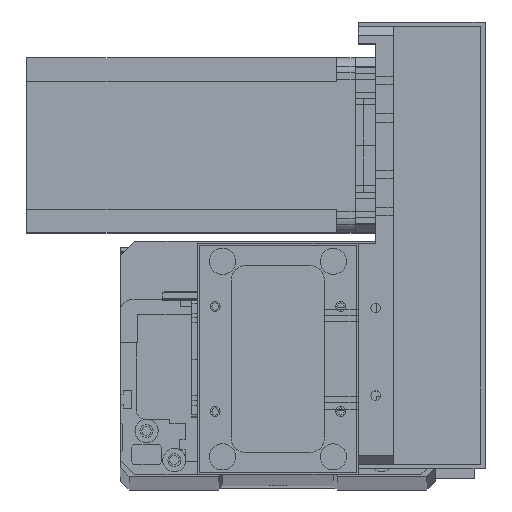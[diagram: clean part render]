
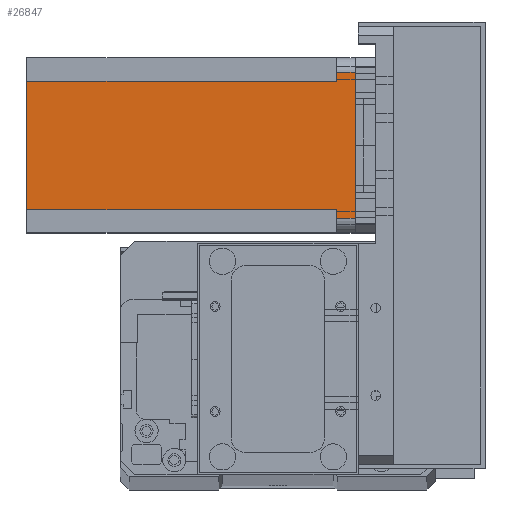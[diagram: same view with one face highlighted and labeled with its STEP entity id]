
A CAD part, top view. The second image highlights one B-rep face of the part: STEP entity #26847.
In plain terms, the highlighted planar face has unit normal (0, 0, 1) as drawn and (0, 1, 0) by its records, which use the part's own axes.
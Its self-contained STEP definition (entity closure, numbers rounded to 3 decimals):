
#25 = CARTESIAN_POINT ( 'NONE',  ( 0., 60., 0. ) ) ;
#172 = LINE ( 'NONE', #484, #33868 ) ;
#215 = LINE ( 'NONE', #25, #28513 ) ;
#484 = CARTESIAN_POINT ( 'NONE',  ( 52., 60., -112.5 ) ) ;
#602 = DIRECTION ( 'NONE',  ( 0., 0., -1. ) ) ;
#1312 = VERTEX_POINT ( 'NONE', #20075 ) ;
#2099 = LINE ( 'NONE', #34075, #15487 ) ;
#2185 = DIRECTION ( 'NONE',  ( -1., 0., 0. ) ) ;
#2917 = VERTEX_POINT ( 'NONE', #25038 ) ;
#2962 = CARTESIAN_POINT ( 'NONE',  ( 52., 60., -6.5 ) ) ;
#3352 = EDGE_CURVE ( 'NONE', #1312, #21145, #6605, .T. ) ;
#4083 = CARTESIAN_POINT ( 'NONE',  ( 55., 60., 0. ) ) ;
#4928 = VERTEX_POINT ( 'NONE', #4083 ) ;
#5136 = CARTESIAN_POINT ( 'NONE',  ( 55., 60., -6.5 ) ) ;
#5646 = DIRECTION ( 'NONE',  ( 1., 0., 0. ) ) ;
#6140 = VERTEX_POINT ( 'NONE', #17571 ) ;
#6154 = CARTESIAN_POINT ( 'NONE',  ( 5., 60., 0. ) ) ;
#6576 = VERTEX_POINT ( 'NONE', #6154 ) ;
#6605 = LINE ( 'NONE', #14763, #20737 ) ;
#8774 = PLANE ( 'NONE',  #10749 ) ;
#9759 = EDGE_CURVE ( 'NONE', #2917, #6576, #28688, .T. ) ;
#10749 = AXIS2_PLACEMENT_3D ( 'NONE', #19339, #11427, #30019 ) ;
#11117 = EDGE_LOOP ( 'NONE', ( #13211, #16205, #27756, #25618, #22162, #32625, #26067, #13283 ) ) ;
#11285 = EDGE_CURVE ( 'NONE', #4928, #6576, #215, .T. ) ;
#11427 = DIRECTION ( 'NONE',  ( 0., 1., 0. ) ) ;
#12087 = CARTESIAN_POINT ( 'NONE',  ( 8., 60., -112.5 ) ) ;
#13211 = ORIENTED_EDGE ( 'NONE', *, *, #11285, .F. ) ;
#13283 = ORIENTED_EDGE ( 'NONE', *, *, #9759, .T. ) ;
#13827 = EDGE_CURVE ( 'NONE', #21444, #22046, #20916, .T. ) ;
#14274 = DIRECTION ( 'NONE',  ( -1., 0., 0. ) ) ;
#14763 = CARTESIAN_POINT ( 'NONE',  ( 8., 60., -112.5 ) ) ;
#15487 = VECTOR ( 'NONE', #2185, 1000. ) ;
#16205 = ORIENTED_EDGE ( 'NONE', *, *, #16761, .T. ) ;
#16761 = EDGE_CURVE ( 'NONE', #4928, #22046, #31526, .T. ) ;
#17404 = VECTOR ( 'NONE', #602, 1000. ) ;
#17571 = CARTESIAN_POINT ( 'NONE',  ( 52., 60., -112.5 ) ) ;
#18518 = DIRECTION ( 'NONE',  ( 0., 0., 1. ) ) ;
#18641 = DIRECTION ( 'NONE',  ( -1., 0., 0. ) ) ;
#19339 = CARTESIAN_POINT ( 'NONE',  ( 0., 60., -112.5 ) ) ;
#19786 = FACE_OUTER_BOUND ( 'NONE', #11117, .T. ) ;
#19930 = EDGE_CURVE ( 'NONE', #6140, #21145, #28636, .T. ) ;
#20075 = CARTESIAN_POINT ( 'NONE',  ( 8., 60., -6.5 ) ) ;
#20737 = VECTOR ( 'NONE', #33313, 1000. ) ;
#20916 = LINE ( 'NONE', #2962, #27183 ) ;
#21145 = VERTEX_POINT ( 'NONE', #12087 ) ;
#21444 = VERTEX_POINT ( 'NONE', #32047 ) ;
#21626 = VECTOR ( 'NONE', #18518, 1000. ) ;
#22046 = VERTEX_POINT ( 'NONE', #5136 ) ;
#22162 = ORIENTED_EDGE ( 'NONE', *, *, #19930, .T. ) ;
#24469 = CARTESIAN_POINT ( 'NONE',  ( 55., 60., -112.5 ) ) ;
#24949 = CARTESIAN_POINT ( 'NONE',  ( 0., 60., -112.5 ) ) ;
#25038 = CARTESIAN_POINT ( 'NONE',  ( 5., 60., -6.5 ) ) ;
#25618 = ORIENTED_EDGE ( 'NONE', *, *, #28568, .F. ) ;
#26067 = ORIENTED_EDGE ( 'NONE', *, *, #30630, .T. ) ;
#26847 = ADVANCED_FACE ( 'NONE', ( #19786 ), #8774, .T. ) ;
#27141 = DIRECTION ( 'NONE',  ( 0., 0., 1. ) ) ;
#27183 = VECTOR ( 'NONE', #5646, 1000. ) ;
#27756 = ORIENTED_EDGE ( 'NONE', *, *, #13827, .F. ) ;
#28513 = VECTOR ( 'NONE', #18641, 1000. ) ;
#28568 = EDGE_CURVE ( 'NONE', #6140, #21444, #172, .T. ) ;
#28636 = LINE ( 'NONE', #24949, #34037 ) ;
#28688 = LINE ( 'NONE', #29089, #21626 ) ;
#29089 = CARTESIAN_POINT ( 'NONE',  ( 5., 60., -112.5 ) ) ;
#30019 = DIRECTION ( 'NONE',  ( 0., 0., 1. ) ) ;
#30630 = EDGE_CURVE ( 'NONE', #1312, #2917, #2099, .T. ) ;
#31526 = LINE ( 'NONE', #24469, #17404 ) ;
#32047 = CARTESIAN_POINT ( 'NONE',  ( 52., 60., -6.5 ) ) ;
#32625 = ORIENTED_EDGE ( 'NONE', *, *, #3352, .F. ) ;
#33313 = DIRECTION ( 'NONE',  ( 0., 0., -1. ) ) ;
#33868 = VECTOR ( 'NONE', #27141, 1000. ) ;
#34037 = VECTOR ( 'NONE', #14274, 1000. ) ;
#34075 = CARTESIAN_POINT ( 'NONE',  ( 8., 60., -6.5 ) ) ;
